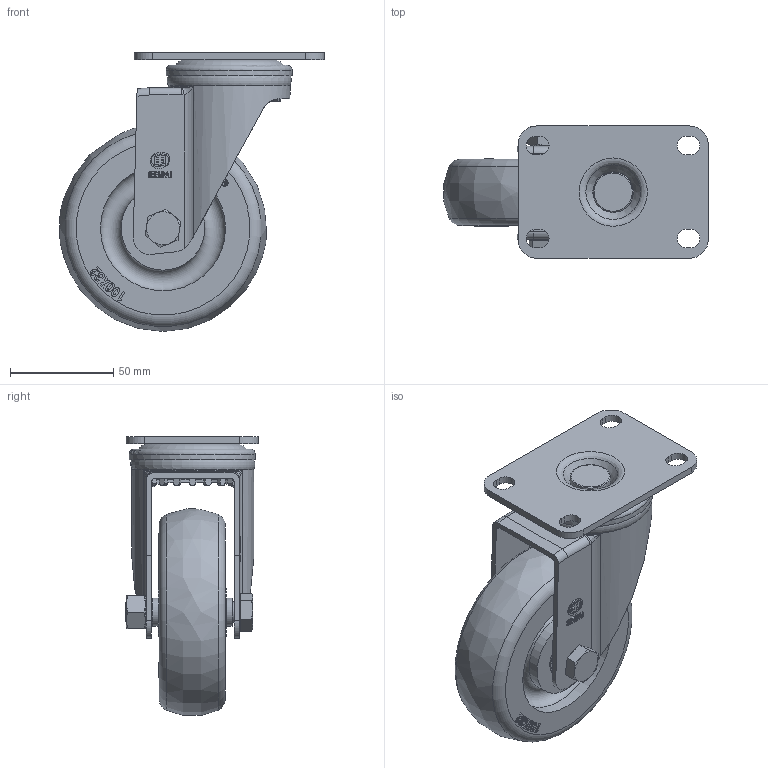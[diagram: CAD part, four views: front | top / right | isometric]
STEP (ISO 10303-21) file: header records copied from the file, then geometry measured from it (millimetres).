
FILE_DESCRIPTION(/* description */ (''),/* implementation_level */ '2;1');
FILE_NAME(/* name */ '20D07_4_F.stp',/* time_stamp */ '2022-10-17T12:44:29+08:00',/* author */ (''),/* organization */ (''),/* preprocessor_version */ 'ST-DEVELOPER v14',/* originating_system */ 'SIEMENS PLM Software NX 8.0',/* authorisation */ '');
FILE_SCHEMA (('AUTOMOTIVE_DESIGN { 1 0 10303 214 3 1 1 1 }'));
Length unit declared in the file: millimetre
Products named in the file (1): 20D07_4_F
Bounding box: 127.95 x 64.25 x 134.93 mm (x, y, z)
Volume: 280580.4 mm3; surface area: 83453.3 mm2
Topology: 1 solids, 1 shells, 829 faces, 2296 edges, 1527 vertices
Faces by surface type: plane 486, cylinder 174, torus 48, sphere 38, cone 36, extrusion 24, bspline 23
Full cylindrical faces by diameter (mm): 2.841 x1, 3.44 x1, 10 x2, 10.2 x2, 12 x1, 12.2 x1, 12.496 x1, 13.6 x2, 16 x1, 23 x2, 30.122 x1, 40.5 x2, 45.996 x1, 54 x1, 56 x1, 57.6 x1, 59 x1, 60.5 x2, 61 x1
Entity records: 30632 total; most frequent: CARTESIAN_POINT 11309, ORIENTED_EDGE 4172, DIRECTION 3539, EDGE_CURVE 2086, VERTEX_POINT 1423, AXIS2_PLACEMENT_3D 1232, VECTOR 1075, LINE 1051
